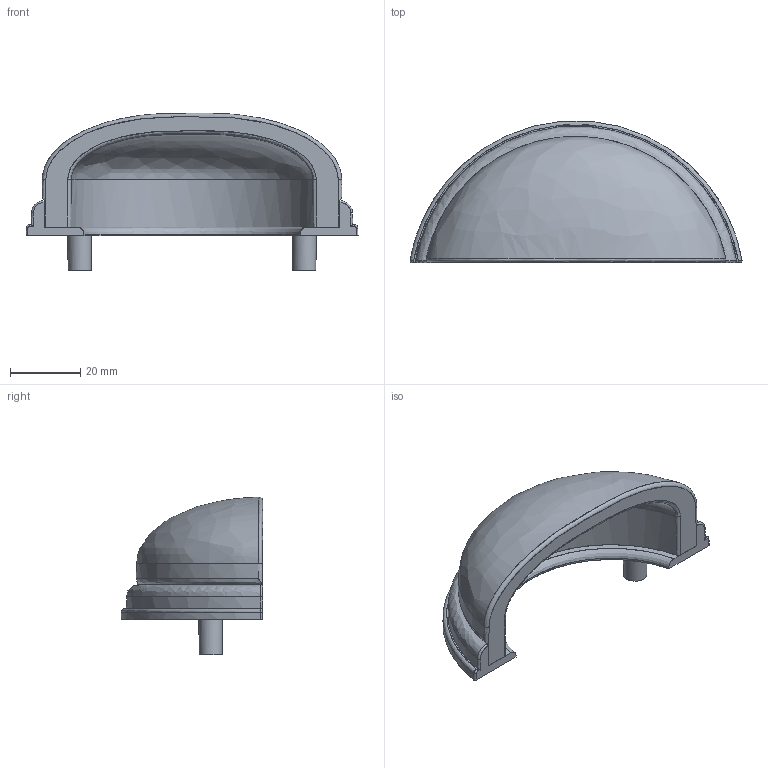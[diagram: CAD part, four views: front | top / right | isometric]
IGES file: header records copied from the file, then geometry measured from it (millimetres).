
Start section: C
Global section: file name: 8127-95.igs; native system: By Siemens PLM Incorporated; preprocessor: XPlus GENERIC/IGES 16.0.42; author: Author; organization: Title; date: 20210505.093437; units: millimetre
Bounding box: 94.56 x 40.26 x 44.99 mm (x, y, z)
Surface area: 16222 mm2 (no closed solid volume)
Topology: 0 solids, 0 shells, 63 faces, 353 edges, 350 vertices
Faces by surface type: bspline 63
